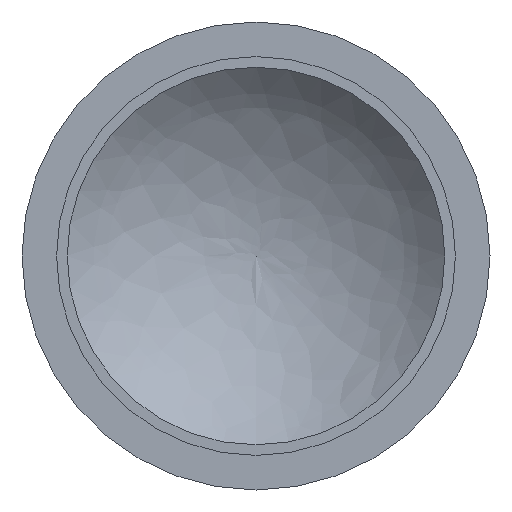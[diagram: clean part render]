
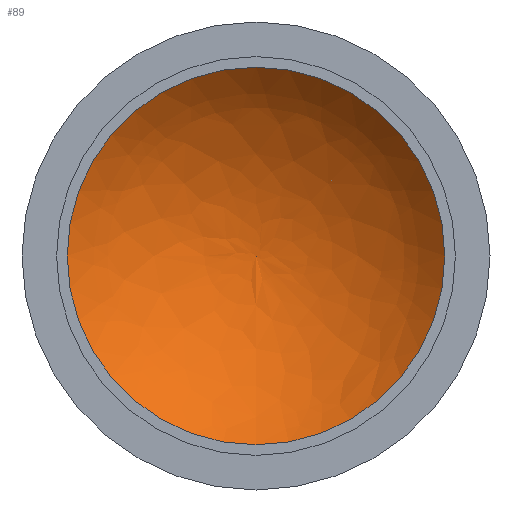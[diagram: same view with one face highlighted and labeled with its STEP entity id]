
A CAD part, front view. The second image highlights one B-rep face of the part: STEP entity #89.
In plain terms, the highlighted free-form (B-spline) face has degree [2, 2] with [3, 9] control points.
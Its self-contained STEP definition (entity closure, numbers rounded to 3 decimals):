
#17=(
BOUNDED_CURVE()
B_SPLINE_CURVE(2,(#175,#176,#177),.UNSPECIFIED.,.F.,.F.)
B_SPLINE_CURVE_WITH_KNOTS((3,3),(-1.526,-0.792),
 .UNSPECIFIED.)
CURVE()
GEOMETRIC_REPRESENTATION_ITEM()
RATIONAL_B_SPLINE_CURVE((1.,0.933,1.))
REPRESENTATION_ITEM('')
);
#18=(
BOUNDED_SURFACE()
B_SPLINE_SURFACE(2,2,((#146,#147,#148,#149,#150,#151,#152,#153,#154),(#155,
#156,#157,#158,#159,#160,#161,#162,#163),(#164,#165,#166,#167,#168,#169,
#170,#171,#172)),.UNSPECIFIED.,.F.,.T.,.F.)
B_SPLINE_SURFACE_WITH_KNOTS((3,3),(3,2,2,2,3),(0.792,1.526),
(-3.142,-1.571,0.,1.571,3.142),
 .UNSPECIFIED.)
GEOMETRIC_REPRESENTATION_ITEM()
RATIONAL_B_SPLINE_SURFACE(((1.,0.707,1.,0.707,1.,
0.707,1.,0.707,1.),(0.933,0.66,
0.933,0.66,0.933,0.66,
0.933,0.66,0.933),(1.,0.707,
1.,0.707,1.,0.707,1.,0.707,1.)))
REPRESENTATION_ITEM('')
SURFACE()
);
#30=FACE_OUTER_BOUND('',#39,.T.);
#39=EDGE_LOOP('',(#74,#75,#76,#77));
#49=CIRCLE('',#101,35.5);
#50=CIRCLE('',#102,35.5);
#56=VERTEX_POINT('',#173);
#57=VERTEX_POINT('',#174);
#58=VERTEX_POINT('',#178);
#64=EDGE_CURVE('',#56,#57,#17,.T.);
#65=EDGE_CURVE('',#58,#57,#49,.T.);
#66=EDGE_CURVE('',#57,#58,#50,.T.);
#74=ORIENTED_EDGE('',*,*,#64,.T.);
#75=ORIENTED_EDGE('',*,*,#65,.F.);
#76=ORIENTED_EDGE('',*,*,#66,.F.);
#77=ORIENTED_EDGE('',*,*,#64,.F.);
#89=ADVANCED_FACE('',(#30),#18,.T.);
#101=AXIS2_PLACEMENT_3D('',#179,#122,#123);
#102=AXIS2_PLACEMENT_3D('',#180,#124,#125);
#122=DIRECTION('center_axis',(0.,1.,0.));
#123=DIRECTION('ref_axis',(1.,0.,0.));
#124=DIRECTION('center_axis',(0.,1.,0.));
#125=DIRECTION('ref_axis',(1.,0.,0.));
#146=CARTESIAN_POINT('Ctrl Pts',(0.,45.,-35.5));
#147=CARTESIAN_POINT('Ctrl Pts',(-35.5,45.,-35.5));
#148=CARTESIAN_POINT('Ctrl Pts',(-35.5,45.,0.));
#149=CARTESIAN_POINT('Ctrl Pts',(-35.5,45.,35.5));
#150=CARTESIAN_POINT('Ctrl Pts',(0.,45.,35.5));
#151=CARTESIAN_POINT('Ctrl Pts',(35.5,45.,35.5));
#152=CARTESIAN_POINT('Ctrl Pts',(35.5,45.,0.));
#153=CARTESIAN_POINT('Ctrl Pts',(35.5,45.,-35.5));
#154=CARTESIAN_POINT('Ctrl Pts',(0.,45.,-35.5));
#155=CARTESIAN_POINT('Ctrl Pts',(0.,59.57,-20.728));
#156=CARTESIAN_POINT('Ctrl Pts',(-20.728,59.57,-20.728));
#157=CARTESIAN_POINT('Ctrl Pts',(-20.728,59.57,0.));
#158=CARTESIAN_POINT('Ctrl Pts',(-20.728,59.57,20.728));
#159=CARTESIAN_POINT('Ctrl Pts',(0.,59.57,20.728));
#160=CARTESIAN_POINT('Ctrl Pts',(20.728,59.57,20.728));
#161=CARTESIAN_POINT('Ctrl Pts',(20.728,59.57,0.));
#162=CARTESIAN_POINT('Ctrl Pts',(20.728,59.57,-20.728));
#163=CARTESIAN_POINT('Ctrl Pts',(0.,59.57,-20.728));
#164=CARTESIAN_POINT('Ctrl Pts',(0.,60.5,0.));
#165=CARTESIAN_POINT('Ctrl Pts',(0.,60.5,0.));
#166=CARTESIAN_POINT('Ctrl Pts',(0.,60.5,0.));
#167=CARTESIAN_POINT('Ctrl Pts',(0.,60.5,0.));
#168=CARTESIAN_POINT('Ctrl Pts',(0.,60.5,0.));
#169=CARTESIAN_POINT('Ctrl Pts',(0.,60.5,0.));
#170=CARTESIAN_POINT('Ctrl Pts',(0.,60.5,0.));
#171=CARTESIAN_POINT('Ctrl Pts',(0.,60.5,0.));
#172=CARTESIAN_POINT('Ctrl Pts',(0.,60.5,0.));
#173=CARTESIAN_POINT('',(0.,60.5,0.));
#174=CARTESIAN_POINT('',(0.,45.,-35.5));
#175=CARTESIAN_POINT('Ctrl Pts',(0.,60.5,0.));
#176=CARTESIAN_POINT('Ctrl Pts',(0.,59.57,-20.728));
#177=CARTESIAN_POINT('Ctrl Pts',(0.,45.,-35.5));
#178=CARTESIAN_POINT('',(-35.5,45.,0.));
#179=CARTESIAN_POINT('Origin',(0.,45.,0.));
#180=CARTESIAN_POINT('Origin',(0.,45.,0.));
